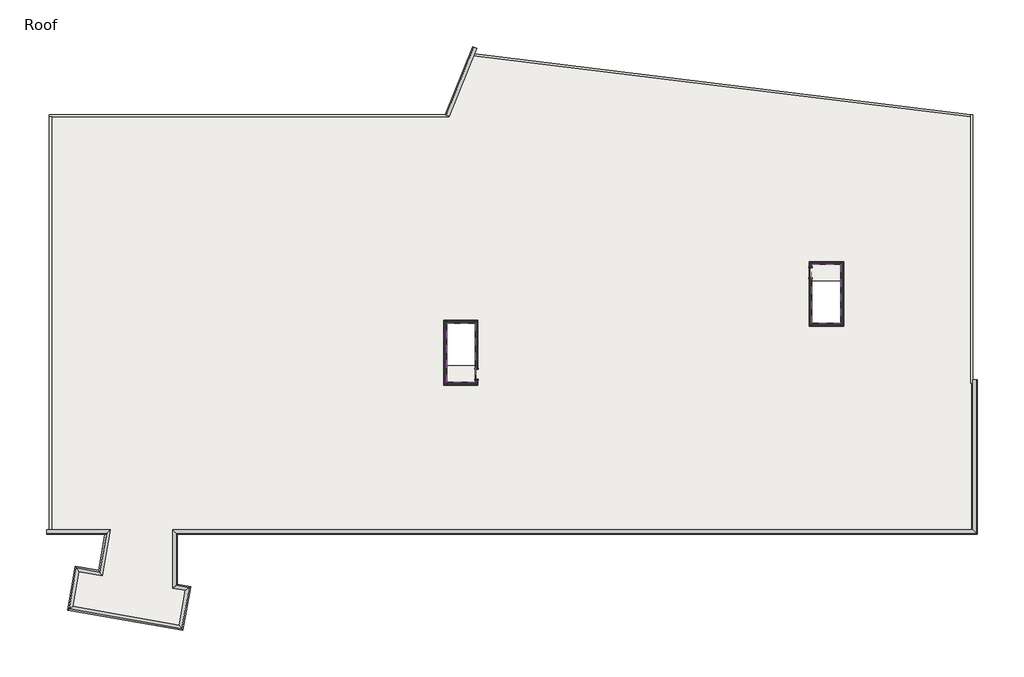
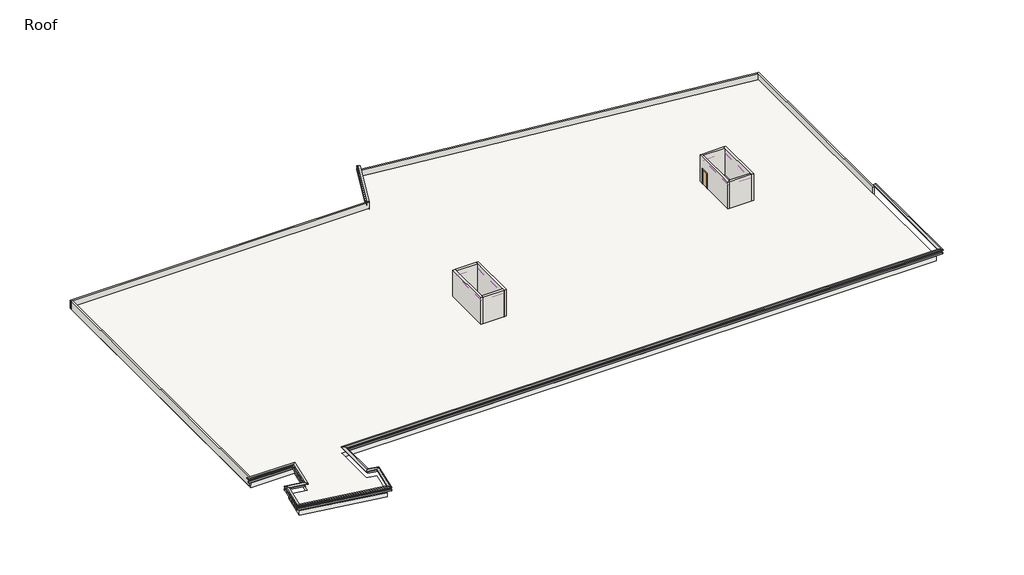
# One storey: 22 proxies, 12 walls, 3 roofs, 2 doors.
"""IFC4 building model written with IfcOpenShell, lengths in millimetres."""

import ifcopenshell
import ifcopenshell.guid

model = None  # the IFC model being written
_history = None  # IfcOwnerHistory: only IFC2X3 demands one
_inside = {}  # id of a spatial element -> (the spatial element, [elements in it])
_under = {}  # id of a project, library or spatial element -> (it, [spatial elements below it])
_declared = {}  # id of a project -> (the project, [libraries it declares])
_typed = {}  # id of a type object -> (the type object, [elements of that type])
_made_of = {}  # id of a material, layer set ... -> (it, [elements and type objects made of it])


def new_model(schema):
    """Start an empty IFC model of exactly this schema.

    Asked for "IFC4X3", IfcOpenShell would pick the latest addendum, in which some entities
    have other attributes; the version numbers below select the first issue.
    IFC2X3 requires an IfcOwnerHistory on every rooted entity: one is made here for all.
    """
    global model, _history
    if schema == "IFC4X3":
        model = ifcopenshell.file(schema_version=(4, 3, 0, 0))
    else:
        model = ifcopenshell.file(schema=schema)
    _inside.clear()
    _under.clear()
    _declared.clear()
    _typed.clear()
    _made_of.clear()
    _history = None
    if model.schema == "IFC2X3":
        org = make("IfcOrganization", Name="unknown")
        user = make(
            "IfcPersonAndOrganization",
            ThePerson=make("IfcPerson", FamilyName="unknown"),
            TheOrganization=org,
        )
        app = make(
            "IfcApplication",
            ApplicationDeveloper=org,
            Version="unknown",
            ApplicationFullName="unknown",
            ApplicationIdentifier="unknown",
        )
        _history = make(
            "IfcOwnerHistory",
            OwningUser=user,
            OwningApplication=app,
            ChangeAction="ADDED",
            CreationDate=0,
        )
    return model


def make(cls, **values):
    """One entity of the class cls with the attributes given. An attribute that is None is left unset."""
    return model.create_entity(
        cls, **{name: value for name, value in values.items() if value is not None}
    )


def rooted(cls, **values):
    """An entity with a GlobalId (a new one), such as an element, a storey or a relation."""
    return make(cls, GlobalId=ifcopenshell.guid.new(), OwnerHistory=_history, **values)


def si_unit(unit_type, name, prefix=None):
    """IfcSIUnit, for example si_unit("LENGTHUNIT", "METRE", prefix="MILLI")."""
    return make("IfcSIUnit", UnitType=unit_type, Prefix=prefix, Name=name)


def assignment(units):
    """IfcUnitAssignment: the units of a project."""
    return None if units is None else make("IfcUnitAssignment", Units=units)


def point(xyz):
    """IfcCartesianPoint."""
    return None if xyz is None else make("IfcCartesianPoint", Coordinates=xyz)


def direction(xyz):
    """IfcDirection."""
    return None if xyz is None else make("IfcDirection", DirectionRatios=xyz)


def frame(location, z_axis=None, x_axis=None):
    """IfcAxis2Placement3D, a coordinate frame: its origin and axes. An axis left out is left unset."""
    return make(
        "IfcAxis2Placement3D",
        Location=point(location),
        Axis=direction(z_axis),
        RefDirection=direction(x_axis),
    )


def origin():
    """The frame at (0, 0, 0) with its axes left unset."""
    return frame((0.0, 0.0, 0.0))


def origin_with_axes():
    """The frame at (0, 0, 0) with the z axis (0, 0, 1) and the x axis (1, 0, 0) written out."""
    return frame((0.0, 0.0, 0.0), z_axis=(0.0, 0.0, 1.0), x_axis=(1.0, 0.0, 0.0))


def place(relative_to, where):
    """IfcLocalPlacement: puts the frame where relative to a parent placement (None: the world)."""
    return make(
        "IfcLocalPlacement", PlacementRelTo=relative_to, RelativePlacement=where
    )


def context(
    kind, dimensions, precision=None, world=None, true_north=None, identifier=None
):
    """IfcGeometricRepresentationContext, for example the 3D "Model" context."""
    return make(
        "IfcGeometricRepresentationContext",
        ContextIdentifier=identifier,
        ContextType=kind,
        CoordinateSpaceDimension=dimensions,
        Precision=precision,
        WorldCoordinateSystem=world,
        TrueNorth=true_north,
    )


def project(units=None, contexts=None):
    """IfcProject with its units and contexts."""
    return rooted(
        "IfcProject",
        Name="project",
        RepresentationContexts=contexts,
        UnitsInContext=assignment(units),
    )


def spatial(cls, under=None, at=None, **own):
    """A site, building, storey or space (cls), placed at a placement, below another one or the project."""
    s = rooted(cls, ObjectPlacement=at, **own)
    if under is not None:
        _under.setdefault(under.id(), (under, []))[1].append(s)
    return s


def polyline(points):
    """IfcPolyline through the points."""
    return make("IfcPolyline", Points=[point(p) for p in points])


def outline(outer, holes=None, kind="AREA"):
    """IfcArbitraryClosedProfileDef: a profile drawn as a closed curve; with holes, ...WithVoids."""
    if holes is None:
        return make("IfcArbitraryClosedProfileDef", ProfileType=kind, OuterCurve=outer)
    return make(
        "IfcArbitraryProfileDefWithVoids",
        ProfileType=kind,
        OuterCurve=outer,
        InnerCurves=holes,
    )


def extrude(swept, where, along, depth):
    """IfcExtrudedAreaSolid: the profile swept, set in the frame where, extruded along a direction by depth."""
    return make(
        "IfcExtrudedAreaSolid",
        SweptArea=swept,
        Position=where,
        ExtrudedDirection=direction(along),
        Depth=depth,
    )


def faces_of(points, faces, orient=None, outer=None):
    """IfcFace entities. A face is a list of loops; a loop is a list of indices into points, from 0.

    orient and outer hold one flag for each loop. By default every Orientation is true, the
    first loop of a face is its IfcFaceOuterBound and the others are IfcFaceBound.
    """
    made = []
    for i, loops in enumerate(faces):
        bounds = []
        for j, loop in enumerate(loops):
            is_outer = j == 0 if outer is None else outer[i][j]
            bounds.append(
                make(
                    "IfcFaceOuterBound" if is_outer else "IfcFaceBound",
                    Bound=make("IfcPolyLoop", Polygon=[points[k] for k in loop]),
                    Orientation=True if orient is None else orient[i][j],
                )
            )
        made.append(make("IfcFace", Bounds=bounds))
    return made


def faceted_brep(points, faces, orient=None, outer=None, voids=None):
    """IfcFacetedBrep: a solid bounded by flat faces; with voids (closed shells), ...WithVoids."""
    shared = [point(p) for p in points]
    hull = make("IfcClosedShell", CfsFaces=faces_of(shared, faces, orient, outer))
    if voids is None:
        return make("IfcFacetedBrep", Outer=hull)
    return make(
        "IfcFacetedBrepWithVoids",
        Outer=hull,
        Voids=[
            make(cls, CfsFaces=faces_of(shared, fs, o, b)) for cls, fs, o, b in voids
        ],
    )


def shape(context_of_items, identifier, shape_type, items):
    """IfcShapeRepresentation: the items that make up one representation, for example the "Body"."""
    return make(
        "IfcShapeRepresentation",
        ContextOfItems=context_of_items,
        RepresentationIdentifier=identifier,
        RepresentationType=shape_type,
        Items=items,
    )


def source(mapping_origin, context_of_items, identifier, shape_type, items):
    """IfcRepresentationMap: a shape defined once, which mapped items show again and again."""
    return make(
        "IfcRepresentationMap",
        MappingOrigin=mapping_origin,
        MappedRepresentation=shape(context_of_items, identifier, shape_type, items),
    )


def transform(
    local_origin,
    x_axis=None,
    y_axis=None,
    z_axis=None,
    scale=None,
    scale2=None,
    scale3=None,
    uniform=True,
):
    """IfcCartesianTransformationOperator3D, or its non-uniform kind. x_axis, y_axis, z_axis: its Axis1, 2, 3."""
    if uniform:
        return make(
            "IfcCartesianTransformationOperator3D",
            Axis1=direction(x_axis),
            Axis2=direction(y_axis),
            LocalOrigin=point(local_origin),
            Scale=scale,
            Axis3=direction(z_axis),
        )
    return make(
        "IfcCartesianTransformationOperator3DnonUniform",
        Axis1=direction(x_axis),
        Axis2=direction(y_axis),
        LocalOrigin=point(local_origin),
        Scale=scale,
        Axis3=direction(z_axis),
        Scale2=scale2,
        Scale3=scale3,
    )


def mapped(mapping_source, mapping_target):
    """IfcMappedItem: shows the shape of a source again, moved by a transform."""
    return make(
        "IfcMappedItem", MappingSource=mapping_source, MappingTarget=mapping_target
    )


def made_of(thing, what):
    """Note that an element or type object is made of a material, layer set ...; save() writes the relation."""
    if what is not None:
        _made_of.setdefault(what.id(), (what, []))[1].append(thing)
    return thing


def element(
    cls,
    number,
    at=None,
    inside=None,
    cuts=None,
    type_object=None,
    material=None,
    context=None,
    identifier="Body",
    shape_type=None,
    held_by="IfcProductDefinitionShape",
    body=None,
    shapes=None,
    **own,
):
    """One element of the class cls, such as IfcWall. Its Tag is "e" and its number.

    at: its placement. inside: the storey or other place that contains it. cuts: it is an
    opening in that element (IfcRelVoidsElement). A single representation is given by context,
    identifier, shape_type and body (its items); several are given by shapes. held_by: the class
    of the entity that holds the representations. save() writes the other relations.
    """
    e = rooted(cls, Tag="e%d" % number, ObjectPlacement=at, **own)
    if body is not None:
        shapes = [shape(context, identifier, shape_type, body)]
    if shapes is not None:
        e.Representation = make(held_by, Representations=shapes)
    if inside is not None:
        _inside.setdefault(inside.id(), (inside, []))[1].append(e)
    if cuts is not None:
        rooted(
            "IfcRelVoidsElement", RelatingBuildingElement=cuts, RelatedOpeningElement=e
        )
    if type_object is not None:
        _typed.setdefault(type_object.id(), (type_object, []))[1].append(e)
    return made_of(e, material)


def aggregate(whole, parts):
    """IfcRelAggregates: a whole, such as a stair, and the parts it consists of."""
    return rooted("IfcRelAggregates", RelatingObject=whole, RelatedObjects=parts)


def save(model, path):
    """Write the relations noted so far, then the file.

    IfcRelAggregates (storeys below a building ...), IfcRelContainedInSpatialStructure (elements
    in a storey), IfcRelDefinesByType, IfcRelAssociatesMaterial and IfcRelDeclares: one each for
    every whole, place, type object, material and project.
    """
    for whole, parts in _under.values():
        aggregate(whole, parts)
    for where, things in _inside.values():
        rooted(
            "IfcRelContainedInSpatialStructure",
            RelatedElements=things,
            RelatingStructure=where,
        )
    for kind, things in _typed.values():
        rooted("IfcRelDefinesByType", RelatedObjects=things, RelatingType=kind)
    for what, things in _made_of.values():
        rooted("IfcRelAssociatesMaterial", RelatedObjects=things, RelatingMaterial=what)
    for by, libraries in _declared.values():
        rooted("IfcRelDeclares", RelatingContext=by, RelatedDefinitions=libraries)
    model.write(path)


def door_ec010f1f(model_context):
    return source(origin(), model_context, "Body", "SweptSolid", [
        extrude(outline(polyline([(2209.8, -533.4), (0.0, -533.4), (0.0, -457.2), (2133.6, -457.2), (2133.6, 457.2), (0.0, 457.2), (0.0, 533.4), (2209.8, 533.4), (2209.8, -533.4)])), frame((0.0, 127.0, 0.0), z_axis=(0.0, 1.0, 0.0), x_axis=(0.0, 0.0, 1.0)), (0.0, 0.0, 1.0), 25.4),
        extrude(outline(polyline([(2209.8, 533.4), (2209.8, -533.4), (0.0, -533.4), (0.0, -457.2), (2133.6, -457.2), (2133.6, 457.2), (0.0, 457.2), (0.0, 533.4), (2209.8, 533.4)])), frame((0.0, -152.4, 0.0), z_axis=(0.0, 1.0, 0.0), x_axis=(0.0, 0.0, 1.0)), (0.0, 0.0, 1.0), 25.4),
        extrude(outline(polyline([(457.2, 76.2), (-457.2, 76.2), (-457.2, 127.0), (457.2, 127.0), (457.2, 76.2)])), origin_with_axes(), (0.0, 0.0, 1.0), 2133.6),
    ])


model = new_model("IFC4")

# Units and contexts
model_context = context("Model", 3, world=origin())
ifc_project = project(units=[si_unit("LENGTHUNIT", "METRE", prefix="MILLI")], contexts=[model_context])

# Site, building, storey
site = spatial("IfcSite", under=ifc_project)
building = spatial("IfcBuilding", under=site)
storey = spatial("IfcBuildingStorey", under=building, Name="Roof", Elevation=18288.0)

# Proxies
placement = place(None, origin())
element("IfcBuildingElementProxy", 1, Name="Wall Sweeps", at=placement, inside=storey, context=model_context, shape_type="Brep", body=[
    faceted_brep([(15183.0054088, -28082.2103492, 19100.8), (15183.0054088, -28082.2103492, 18897.6), (15090.9304088, -27990.1353492, 18897.6), (15090.9304088, -27990.1353492, 19100.8), (-57076.0875003, -28082.2103492, 19100.8), (-57168.1625003, -27990.1353492, 19100.8), (-57168.1625003, -27990.1353492, 18897.6), (-57076.0875003, -28082.2103492, 18897.6), (-57076.0875003, -27990.1353492, 18897.6), (-57076.0875003, -27990.1353492, 19100.8)], [[[0, 1, 2, 3]], [[4, 5, 6, 7]], [[1, 0, 4, 7]], [[2, 1, 7, 6, 8]], [[3, 2, 8, 6, 5, 9]], [[0, 3, 9, 5, 4]]]),
])
element("IfcBuildingElementProxy", 2, Name="Wall Sweeps", at=placement, inside=storey, context=model_context, shape_type="Brep", body=[
    faceted_brep([(14802.0054088, -27701.2103492, 19367.5), (15081.4054088, -27980.6103492, 19405.6), (15208.4054088, -28107.6103492, 19367.5), (15208.4054088, -28107.6103492, 19304.0), (14802.0054088, -27701.2103492, 19304.0), (-57457.0875003, -27701.2103492, 19367.5), (-57457.0875003, -27701.2103492, 19304.0), (-57050.6875003, -28107.6103492, 19304.0), (-57050.6875003, -28107.6103492, 19367.5), (-57177.6875003, -27980.6103492, 19405.6)], [[[0, 1, 2, 3, 4]], [[5, 6, 7, 8, 9]], [[1, 0, 5, 9]], [[2, 1, 9, 8]], [[3, 2, 8, 7]], [[4, 3, 7, 6]], [[0, 4, 6, 5]]]),
])
element("IfcBuildingElementProxy", 3, Name="Wall Sweeps", at=placement, inside=storey, context=model_context, shape_type="SweptSolid", body=[
    extrude(outline(polyline([(-63573.0663387, -28082.2103492), (-63463.3356266, -27990.1353492), (-64081.0179385, -31493.1858149), (-64155.7054564, -31386.5209851), (-63573.0663387, -28082.2103492)])), frame((0.0, 0.0, 18897.6), z_axis=(0.0, 0.0, 1.0), x_axis=(1.0, 0.0, 0.0)), (0.0, 0.0, 1.0), 203.2),
])
element("IfcBuildingElementProxy", 4, Name="Wall Sweeps", at=placement, inside=storey, context=model_context, shape_type="Brep", body=[
    faceted_brep([(-63119.0082199, -27701.2103492, 19367.5), (-63119.0082199, -27701.2103492, 19304.0), (-63603.3368799, -28107.6103492, 19304.0), (-63603.3368799, -28107.6103492, 19367.5), (-63451.9841737, -27980.6103492, 19405.6), (-63846.6536582, -31827.8926946, 19367.5), (-64073.2916436, -31504.2201076, 19405.6), (-64176.3089096, -31357.0962044, 19367.5), (-64176.3089096, -31357.0962044, 19304.0), (-63846.6536582, -31827.8926946, 19304.0)], [[[0, 1, 2, 3, 4]], [[5, 6, 7, 8, 9]], [[0, 4, 6, 5]], [[4, 3, 7, 6]], [[3, 2, 8, 7]], [[2, 1, 9, 8]], [[1, 0, 5, 9]]]),
])
element("IfcBuildingElementProxy", 5, Name="Wall Sweeps", at=placement, inside=storey, context=model_context, shape_type="Brep", body=[
    faceted_brep([(-64155.7054564, -31386.5209851, 19100.8), (-64081.0179385, -31493.1858149, 19100.8), (-64081.0179385, -31493.1858149, 18897.6), (-64155.7054564, -31386.5209851, 18897.6), (-66256.8912782, -31016.0252332, 19100.8), (-66256.8912782, -31016.0252332, 18897.6), (-66182.2037603, -31122.690063, 18897.6), (-66182.2037603, -31122.690063, 19100.8), (-64171.6941124, -31477.1971589, 18897.6), (-64171.6941124, -31477.1971589, 19100.8)], [[[0, 1, 2, 3]], [[4, 5, 6, 7]], [[0, 3, 5, 4]], [[3, 2, 8, 6, 5]], [[2, 1, 9, 7, 6, 8]], [[1, 0, 4, 7, 9]]]),
])
element("IfcBuildingElementProxy", 6, Name="Wall Sweeps", at=placement, inside=storey, context=model_context, shape_type="Brep", body=[
    faceted_brep([(-63846.6536582, -31827.8926946, 19367.5), (-63846.6536582, -31827.8926946, 19304.0), (-64176.3089096, -31357.0962044, 19304.0), (-64176.3089096, -31357.0962044, 19367.5), (-64073.2916436, -31504.2201076, 19405.6), (-65947.83948, -31457.3969428, 19367.5), (-66174.4774654, -31133.7243557, 19405.6), (-66277.4947315, -30986.6004526, 19367.5), (-66277.4947315, -30986.6004526, 19304.0), (-65947.83948, -31457.3969428, 19304.0)], [[[0, 1, 2, 3, 4]], [[5, 6, 7, 8, 9]], [[0, 4, 6, 5]], [[4, 3, 7, 6]], [[3, 2, 8, 7]], [[2, 1, 9, 8]], [[1, 0, 5, 9]]]),
])
element("IfcBuildingElementProxy", 7, Name="Wall Sweeps", at=placement, inside=storey, context=model_context, shape_type="Brep", body=[
    faceted_brep([(-66256.8912782, -31016.0252332, 19100.8), (-66182.2037603, -31122.690063, 19100.8), (-66182.2037603, -31122.690063, 18897.6), (-66256.8912782, -31016.0252332, 18897.6), (-66944.9548174, -34918.2274737, 19100.8), (-66944.9548174, -34918.2274737, 18897.6), (-66838.2899876, -34843.5399558, 18897.6), (-66838.2899876, -34843.5399558, 19100.8), (-66318.0892373, -31363.0961055, 18897.6), (-66318.0892373, -31363.0961055, 19100.8), (-66227.4130634, -31379.0847615, 18897.6), (-66227.4130634, -31379.0847615, 19100.8)], [[[0, 1, 2, 3]], [[4, 5, 6, 7]], [[0, 3, 8, 5, 4, 9]], [[3, 2, 10, 6, 5, 8]], [[2, 1, 11, 7, 6, 10]], [[1, 0, 9, 4, 7, 11]]]),
])
element("IfcBuildingElementProxy", 8, Name="Wall Sweeps", at=placement, inside=storey, context=model_context, shape_type="Brep", body=[
    faceted_brep([(-65947.83948, -31457.3969428, 19367.5), (-65947.83948, -31457.3969428, 19304.0), (-66277.4947315, -30986.6004526, 19304.0), (-66277.4947315, -30986.6004526, 19367.5), (-66174.4774654, -31133.7243557, 19405.6), (-66503.5831078, -34609.1756755, 19367.5), (-66827.2556949, -34835.8136609, 19405.6), (-66974.3795981, -34938.8309269, 19367.5), (-66974.3795981, -34938.8309269, 19304.0), (-66503.5831078, -34609.1756755, 19304.0)], [[[0, 1, 2, 3, 4]], [[5, 6, 7, 8, 9]], [[0, 4, 6, 5]], [[4, 3, 7, 6]], [[3, 2, 8, 7]], [[2, 1, 9, 8]], [[1, 0, 5, 9]]]),
])
element("IfcBuildingElementProxy", 9, Name="Wall Sweeps", at=placement, inside=storey, context=model_context, shape_type="Brep", body=[
    faceted_brep([(-66944.9548174, -34918.2274737, 19100.8), (-66838.2899876, -34843.5399558, 19100.8), (-66838.2899876, -34843.5399558, 18897.6), (-66944.9548174, -34918.2274737, 18897.6), (-56579.730116, -36745.8962497, 19100.8), (-56579.730116, -36745.8962497, 18897.6), (-56654.4176339, -36639.2314199, 18897.6), (-56654.4176339, -36639.2314199, 19100.8), (-66597.8839451, -34979.4254327, 18897.6), (-66597.8839451, -34979.4254327, 19100.8), (-66581.8952891, -34888.7492589, 18897.6), (-66581.8952891, -34888.7492589, 19100.8)], [[[0, 1, 2, 3]], [[4, 5, 6, 7]], [[0, 3, 8, 5, 4, 9]], [[3, 2, 10, 6, 5, 8]], [[2, 1, 11, 7, 6, 10]], [[1, 0, 9, 4, 7, 11]]]),
])
element("IfcBuildingElementProxy", 10, Name="Wall Sweeps", at=placement, inside=storey, context=model_context, shape_type="Brep", body=[
    faceted_brep([(-66503.5831078, -34609.1756755, 19367.5), (-66503.5831078, -34609.1756755, 19304.0), (-66974.3795981, -34938.8309269, 19304.0), (-66974.3795981, -34938.8309269, 19367.5), (-66827.2556949, -34835.8136609, 19405.6), (-56888.7819142, -36304.5245401, 19367.5), (-56662.1439289, -36628.1971271, 19405.6), (-56559.1266628, -36775.3210303, 19367.5), (-56559.1266628, -36775.3210303, 19304.0), (-56888.7819142, -36304.5245401, 19304.0)], [[[0, 1, 2, 3, 4]], [[5, 6, 7, 8, 9]], [[0, 4, 6, 5]], [[4, 3, 7, 6]], [[3, 2, 8, 7]], [[2, 1, 9, 8]], [[1, 0, 5, 9]]]),
])
element("IfcBuildingElementProxy", 11, Name="Wall Sweeps", at=placement, inside=storey, context=model_context, shape_type="Brep", body=[
    faceted_brep([(-56579.730116, -36745.8962497, 19100.8), (-56654.4176339, -36639.2314199, 19100.8), (-56654.4176339, -36639.2314199, 18897.6), (-56579.730116, -36745.8962497, 18897.6), (-55891.6665768, -32843.6940092, 19100.8), (-55891.6665768, -32843.6940092, 18897.6), (-55998.3314066, -32918.3815271, 18897.6), (-55998.3314066, -32918.3815271, 19100.8), (-56518.532157, -36398.8253773, 18897.6), (-56518.532157, -36398.8253773, 19100.8), (-56609.2083309, -36382.8367214, 18897.6), (-56609.2083309, -36382.8367214, 19100.8)], [[[0, 1, 2, 3]], [[4, 5, 6, 7]], [[0, 3, 8, 5, 4, 9]], [[3, 2, 10, 6, 5, 8]], [[2, 1, 11, 7, 6, 10]], [[1, 0, 9, 4, 7, 11]]]),
])
element("IfcBuildingElementProxy", 12, Name="Wall Sweeps", at=placement, inside=storey, context=model_context, shape_type="Brep", body=[
    faceted_brep([(-56888.7819142, -36304.5245401, 19367.5), (-56888.7819142, -36304.5245401, 19304.0), (-56559.1266628, -36775.3210303, 19304.0), (-56559.1266628, -36775.3210303, 19367.5), (-56662.1439289, -36628.1971271, 19405.6), (-56333.0382864, -33152.7458074, 19367.5), (-56009.3656994, -32926.107822, 19405.6), (-55862.2417962, -32823.0905559, 19367.5), (-55862.2417962, -32823.0905559, 19304.0), (-56333.0382864, -33152.7458074, 19304.0)], [[[0, 1, 2, 3, 4]], [[5, 6, 7, 8, 9]], [[0, 4, 6, 5]], [[4, 3, 7, 6]], [[3, 2, 8, 7]], [[2, 1, 9, 8]], [[1, 0, 5, 9]]]),
])
element("IfcBuildingElementProxy", 13, Name="Wall Sweeps", at=placement, inside=storey, context=model_context, shape_type="Brep", body=[
    faceted_brep([(-55891.6665768, -32843.6940092, 19100.8), (-55998.3314066, -32918.3815271, 19100.8), (-55998.3314066, -32918.3815271, 18897.6), (-55891.6665768, -32843.6940092, 18897.6), (-57076.0875003, -32634.8486438, 19100.8), (-57076.0875003, -32634.8486438, 18897.6), (-57168.1625003, -32712.1087424, 18897.6), (-57168.1625003, -32712.1087424, 19100.8), (-56238.7374492, -32782.4960501, 18897.6), (-56238.7374492, -32782.4960501, 19100.8), (-56254.7261051, -32873.172224, 18897.6), (-56254.7261051, -32873.172224, 19100.8)], [[[0, 1, 2, 3]], [[4, 5, 6, 7]], [[0, 3, 8, 5, 4, 9]], [[3, 2, 10, 6, 5, 8]], [[2, 1, 11, 7, 6, 10]], [[1, 0, 9, 4, 7, 11]]]),
])
element("IfcBuildingElementProxy", 14, Name="Wall Sweeps", at=placement, inside=storey, context=model_context, shape_type="Brep", body=[
    faceted_brep([(-56333.0382864, -33152.7458074, 19367.5), (-56333.0382864, -33152.7458074, 19304.0), (-55862.2417962, -32823.0905559, 19304.0), (-55862.2417962, -32823.0905559, 19367.5), (-56009.3656994, -32926.107822, 19405.6), (-57457.0875003, -32954.5456033, 19367.5), (-57177.6875003, -32720.1011664, 19405.6), (-57050.6875003, -32613.5355132, 19367.5), (-57050.6875003, -32613.5355132, 19304.0), (-57457.0875003, -32954.5456033, 19304.0)], [[[0, 1, 2, 3, 4]], [[5, 6, 7, 8, 9]], [[0, 4, 6, 5]], [[4, 3, 7, 6]], [[3, 2, 8, 7]], [[2, 1, 9, 8]], [[1, 0, 5, 9]]]),
])
element("IfcBuildingElementProxy", 15, Name="Wall Sweeps", at=placement, inside=storey, context=model_context, shape_type="Brep", body=[
    faceted_brep([(-57076.0875003, -32634.8486438, 19100.8), (-57168.1625003, -32712.1087424, 19100.8), (-57168.1625003, -32712.1087424, 18897.6), (-57076.0875003, -32634.8486438, 18897.6), (-57076.0875003, -28082.2103492, 19100.8), (-57076.0875003, -28082.2103492, 18897.6), (-57168.1625003, -27990.1353492, 18897.6), (-57168.1625003, -27990.1353492, 19100.8), (-57168.1625003, -32618.6133371, 18897.6), (-57168.1625003, -32618.6133371, 19100.8)], [[[0, 1, 2, 3]], [[4, 5, 6, 7]], [[0, 3, 5, 4]], [[3, 2, 8, 6, 5]], [[2, 1, 9, 7, 6, 8]], [[1, 0, 4, 7, 9]]]),
])
element("IfcBuildingElementProxy", 16, Name="Wall Sweeps", at=placement, inside=storey, context=model_context, shape_type="Brep", body=[
    faceted_brep([(-57457.0875003, -32954.5456033, 19367.5), (-57457.0875003, -32954.5456033, 19304.0), (-57050.6875003, -32613.5355132, 19304.0), (-57050.6875003, -32613.5355132, 19367.5), (-57177.6875003, -32720.1011664, 19405.6), (-57457.0875003, -27701.2103492, 19367.5), (-57177.6875003, -27980.6103492, 19405.6), (-57050.6875003, -28107.6103492, 19367.5), (-57050.6875003, -28107.6103492, 19304.0), (-57457.0875003, -27701.2103492, 19304.0)], [[[0, 1, 2, 3, 4]], [[5, 6, 7, 8, 9]], [[0, 4, 6, 5]], [[4, 3, 7, 6]], [[3, 2, 8, 7]], [[2, 1, 9, 8]], [[1, 0, 5, 9]]]),
])
element("IfcBuildingElementProxy", 17, Name="Wall Sweeps", at=placement, inside=storey, context=model_context, shape_type="Brep", body=[
    faceted_brep([(-63573.0663387, -28082.2103492, 19100.8), (-63573.0663387, -28082.2103492, 18897.6), (-63463.3356266, -27990.1353492, 18897.6), (-63463.3356266, -27990.1353492, 19100.8), (-68878.5489105, -28082.2103492, 19100.8), (-68878.5489105, -27990.1353492, 19100.8), (-68878.5489105, -27990.1353492, 18897.6), (-68878.5489105, -28082.2103492, 18897.6), (-63556.8310319, -27990.1353492, 18897.6), (-63556.8310319, -27990.1353492, 19100.8)], [[[0, 1, 2, 3]], [[4, 5, 6, 7]], [[1, 0, 4, 7]], [[2, 1, 7, 6, 8]], [[3, 2, 8, 6, 5, 9]], [[0, 3, 9, 5, 4]]]),
])
element("IfcBuildingElementProxy", 18, Name="Wall Sweeps", at=placement, inside=storey, context=model_context, shape_type="Brep", body=[
    faceted_brep([(-63119.0082199, -27701.2103492, 19367.5), (-63451.9841737, -27980.6103492, 19405.6), (-63603.3368799, -28107.6103492, 19367.5), (-63603.3368799, -28107.6103492, 19304.0), (-63119.0082199, -27701.2103492, 19304.0), (-68878.5489105, -27701.2103492, 19367.5), (-68878.5489105, -27701.2103492, 19304.0), (-68878.5489105, -27729.7853492, 19304.0), (-68878.5489105, -28082.2103492, 19304.0), (-68878.5489105, -28107.6103492, 19304.0), (-68878.5489105, -28107.6103492, 19367.5), (-68878.5489105, -27980.6103492, 19405.6)], [[[0, 1, 2, 3, 4]], [[5, 6, 7, 8, 9, 10, 11]], [[1, 0, 5, 11]], [[2, 1, 11, 10]], [[3, 2, 10, 9]], [[4, 3, 9, 8, 7, 6]], [[0, 4, 6, 5]]]),
])
element("IfcBuildingElementProxy", 19, Name="Wall Sweeps", at=placement, inside=storey, context=model_context, shape_type="Brep", body=[
    faceted_brep([(-32848.1803429, 9805.0646508, 19100.8), (-32848.1803429, 9805.0646508, 18897.6), (-32762.8098895, 9770.5727487, 18897.6), (-32762.8098895, 9770.5727487, 19100.8), (-30364.4519809, 15952.5080671, 19100.8), (-30279.0815275, 15918.016165, 19100.8), (-30279.0815275, 15918.016165, 18897.6), (-30364.4519809, 15952.5080671, 18897.6), (-32748.8742565, 9805.0646508, 18897.6), (-32748.8742565, 9805.0646508, 19100.8)], [[[0, 1, 2, 3]], [[4, 5, 6, 7]], [[1, 0, 4, 7]], [[2, 1, 7, 6, 8]], [[3, 2, 8, 6, 5, 9]], [[0, 3, 9, 5, 4]]]),
])
element("IfcBuildingElementProxy", 20, Name="Wall Sweeps", at=placement, inside=storey, context=model_context, shape_type="Brep", body=[
    faceted_brep([(-32494.9232944, 9662.3395387, 19367.5), (-32753.9784633, 9767.0046209, 19405.6), (-32871.7308129, 9814.5796583, 19367.5), (-32871.7308129, 9814.5796583, 19304.0), (-32494.9232944, 9662.3395387, 19304.0), (-30011.1949323, 15809.782955, 19367.5), (-30011.1949323, 15809.782955, 19304.0), (-30037.689211, 15820.4873384, 19304.0), (-30364.4519809, 15952.5080671, 19304.0), (-30388.0024508, 15962.0230746, 19304.0), (-30388.0024508, 15962.0230746, 19367.5), (-30270.2501013, 15914.4480372, 19405.6)], [[[0, 1, 2, 3, 4]], [[5, 6, 7, 8, 9, 10, 11]], [[1, 0, 5, 11]], [[2, 1, 11, 10]], [[3, 2, 10, 9]], [[4, 3, 9, 8, 7, 6]], [[0, 4, 6, 5]]]),
])
element("IfcBuildingElementProxy", 21, Name="Wall Sweeps", at=placement, inside=storey, context=model_context, shape_type="Brep", body=[
    faceted_brep([(15183.0054088, -14142.3728492, 19100.8), (15183.0054088, -14142.3728492, 18897.6), (15090.9304088, -14142.3728492, 18897.6), (15090.9304088, -14142.3728492, 19100.8), (15183.0054088, -28082.2103492, 19100.8), (15090.9304088, -27990.1353492, 19100.8), (15090.9304088, -27990.1353492, 18897.6), (15183.0054088, -28082.2103492, 18897.6), (15183.0054088, -27729.7853492, 19100.8), (15183.0054088, -27729.7853492, 18897.6), (15090.9304088, -27729.7853492, 18897.6), (15090.9304088, -27729.7853492, 19100.8)], [[[0, 1, 2, 3]], [[4, 5, 6, 7]], [[1, 0, 8, 4, 7, 9]], [[2, 1, 9, 7, 6, 10]], [[3, 2, 10, 6, 5, 11]], [[0, 3, 11, 5, 4, 8]]]),
])
element("IfcBuildingElementProxy", 22, Name="Wall Sweeps", at=placement, inside=storey, context=model_context, shape_type="Brep", body=[
    faceted_brep([(14802.0054088, -14142.3728492, 19367.5), (15081.4054088, -14142.3728492, 19405.6), (15208.4054088, -14142.3728492, 19367.5), (15208.4054088, -14142.3728492, 19304.0), (15183.0054088, -14142.3728492, 19304.0), (14830.5804088, -14142.3728492, 19304.0), (14802.0054088, -14142.3728492, 19304.0), (14802.0054088, -27701.2103492, 19367.5), (14802.0054088, -27701.2103492, 19304.0), (15208.4054088, -28107.6103492, 19304.0), (15208.4054088, -28107.6103492, 19367.5), (15081.4054088, -27980.6103492, 19405.6)], [[[0, 1, 2, 3, 4, 5, 6]], [[7, 8, 9, 10, 11]], [[1, 0, 7, 11]], [[2, 1, 11, 10]], [[3, 2, 10, 9]], [[6, 5, 4, 3, 9, 8]], [[0, 6, 8, 7]]]),
])

# Doors
door_shape = door_ec010f1f(model_context)
element("IfcDoor", 23, ObjectType="Single-Flush : 36\" x 84\"", at=placement, inside=storey, context=model_context, shape_type="MappedRepresentation", body=[
    mapped(door_shape, transform((-30039.6713641, -13629.6103492, 18288.0), x_axis=(0.0, 1.0, 0.0), y_axis=(-1.0, 0.0, 0.0), z_axis=(0.0, 0.0, 1.0))),
])
element("IfcDoor", 24, ObjectType="Single-Flush : 36\" x 84\"", at=placement, inside=storey, context=model_context, shape_type="MappedRepresentation", body=[
    mapped(door_shape, transform((131.9000645, -4460.2103492, 18288.0), x_axis=(0.0, 1.0, 0.0), y_axis=(-1.0, 0.0, 0.0), z_axis=(0.0, 0.0, 1.0))),
])

# Roofs
element("IfcRoof", 25, ObjectType="Steel Truss - Insulation on Metal Deck - EPDM", at=placement, inside=storey, context=model_context, shape_type="SweptSolid", body=[
    extrude(outline(polyline([(-63153.0625788, -27729.7853492), (-68426.1114105, -27729.7853492), (-68426.1114105, 9611.3896508), (-32546.3275155, 9611.3896508), (-30314.3106087, 15135.8253535), (14587.6929088, 9622.552568), (14587.6929088, -14390.0228492), (14627.3804088, -14390.0228492), (14627.3804088, -27729.7853492), (-57428.5125003, -27729.7853492), (-57428.5125003, -32930.5683313), (-56299.9354082, -33129.5669225), (-56865.6030293, -36337.6274183), (-66536.6859861, -34632.3545604), (-65971.0183649, -31424.2940646), (-63869.8325431, -31794.7898164), (-63153.0625788, -27729.7853492)]), holes=[polyline([(-32750.2142212, -9032.2103492), (-32750.2142212, -12842.2103492), (-30166.6713641, -12842.2103492), (-30166.6713641, -9032.2103492), (-32750.2142212, -9032.2103492)]), polyline([(2867.8429217, -9032.2103492), (2867.8429217, -5222.2103492), (284.3000645, -5222.2103492), (284.3000645, -9032.2103492), (2867.8429217, -9032.2103492)])]), frame((0.0, 0.0, 17983.2), z_axis=(0.0, 0.0, 1.0), x_axis=(1.0, 0.0, 0.0)), (0.0, 0.0, 1.0), 546.1),
])
element("IfcRoof", 26, ObjectType="Steel Truss - Insulation on Metal Deck - EPDM", at=placement, inside=storey, context=model_context, shape_type="SweptSolid", body=[
    extrude(outline(polyline([(-30166.6713641, -9032.2103492), (-30166.6713641, -14366.2103492), (-32750.2142212, -14366.2103492), (-32750.2142212, -9032.2103492), (-30166.6713641, -9032.2103492)])), frame((0.0, 0.0, 21336.0), z_axis=(0.0, 0.0, 1.0), x_axis=(1.0, 0.0, 0.0)), (0.0, 0.0, 1.0), 546.1),
])
element("IfcRoof", 27, ObjectType="Steel Truss - Insulation on Metal Deck - EPDM", at=placement, inside=storey, context=model_context, shape_type="SweptSolid", body=[
    extrude(outline(polyline([(258.9000645, -9032.2103492), (258.9000645, -3723.6103492), (2867.8429217, -3723.6103492), (2867.8429217, -9032.2103492), (258.9000645, -9032.2103492)])), frame((0.0, 0.0, 21336.0), z_axis=(0.0, 0.0, 1.0), x_axis=(1.0, 0.0, 0.0)), (0.0, 0.0, 1.0), 546.1),
])

# Walls
element("IfcWall", 28, ObjectType="Core-shaft 10\" Concrete", at=placement, inside=storey, context=model_context, shape_type="Brep", body=[
    faceted_brep([(-32750.2142212, -14620.2103492, 18288.0), (-32750.2142212, -14366.2103492, 18288.0), (-32750.2142212, -9032.2103492, 18288.0), (-32750.2142212, -8778.2103492, 18288.0), (-32750.2142212, -8778.2103492, 21945.6), (-32750.2142212, -9032.2103492, 21945.6), (-32750.2142212, -14366.2103492, 21945.6), (-32750.2142212, -14620.2103492, 21945.6), (-33004.2142212, -14620.2103492, 18288.0), (-33004.2142212, -14620.2103492, 21945.6), (-33004.2142212, -8778.2103492, 21945.6), (-33004.2142212, -8778.2103492, 18288.0)], [[[0, 1, 2, 3, 4, 5, 6, 7]], [[8, 9, 10, 11]], [[3, 2, 1, 0, 8, 11]], [[7, 6, 5, 4, 10, 9]], [[4, 3, 11, 10]], [[0, 7, 9, 8]]]),
])
element("IfcWall", 29, ObjectType="Core-shaft 10\" Concrete", at=placement, inside=storey, context=model_context, shape_type="Brep", body=[
    faceted_brep([(-29912.6713641, -13172.4103492, 20421.6), (-29912.6713641, -13172.4103492, 18288.0), (-29912.6713641, -8778.2103492, 18288.0), (-29912.6713641, -8778.2103492, 21945.6), (-29912.6713641, -14620.2103492, 21945.6), (-29912.6713641, -14620.2103492, 18288.0), (-29912.6713641, -14086.8103492, 18288.0), (-29912.6713641, -14086.8103492, 20421.6), (-30166.6713641, -8778.2103492, 18288.0), (-30166.6713641, -9032.2103492, 18288.0), (-30166.6713641, -13172.4103492, 18288.0), (-30166.6713641, -13172.4103492, 20421.6), (-30166.6713641, -14086.8103492, 20421.6), (-30166.6713641, -14086.8103492, 18288.0), (-30166.6713641, -14366.2103492, 18288.0), (-30166.6713641, -14620.2103492, 18288.0), (-30166.6713641, -14620.2103492, 21945.6), (-30166.6713641, -14366.2103492, 21945.6), (-30166.6713641, -9032.2103492, 21945.6), (-30166.6713641, -8778.2103492, 21945.6)], [[[0, 1, 2, 3, 4, 5, 6, 7]], [[8, 9, 10, 11, 12, 13, 14, 15, 16, 17, 18, 19]], [[6, 5, 15, 14, 13]], [[2, 1, 10, 9, 8]], [[4, 3, 19, 18, 17, 16]], [[3, 2, 8, 19]], [[11, 10, 1, 0]], [[12, 11, 0, 7]], [[13, 12, 7, 6]], [[5, 4, 16, 15]]]),
])
element("IfcWall", 30, ObjectType="Core-shaft 10\" Concrete", at=placement, inside=storey, context=model_context, shape_type="SweptSolid", body=[
    extrude(outline(polyline([(-32750.2142212, -8778.2103492), (-30166.6713641, -8778.2103492), (-30166.6713641, -9032.2103492), (-32750.2142212, -9032.2103492), (-32750.2142212, -8778.2103492)])), frame((0.0, 0.0, 18288.0), z_axis=(0.0, 0.0, 1.0), x_axis=(1.0, 0.0, 0.0)), (0.0, 0.0, 1.0), 3657.6),
])
element("IfcWall", 31, ObjectType="Core-shaft 10\" Concrete", at=placement, inside=storey, context=model_context, shape_type="SweptSolid", body=[
    extrude(outline(polyline([(-32750.2142212, -14366.2103492), (-30166.6713641, -14366.2103492), (-30166.6713641, -14620.2103492), (-32750.2142212, -14620.2103492), (-32750.2142212, -14366.2103492)])), frame((0.0, 0.0, 18288.0), z_axis=(0.0, 0.0, 1.0), x_axis=(1.0, 0.0, 0.0)), (0.0, 0.0, 1.0), 3657.6),
])
element("IfcWall", 32, ObjectType="Core-shaft 10\" Concrete", at=placement, inside=storey, context=model_context, shape_type="Brep", body=[
    faceted_brep([(3121.8429217, -9286.2103492, 18288.0), (3121.8429217, -3469.6103492, 18288.0), (3121.8429217, -3469.6103492, 21945.6), (3121.8429217, -9286.2103492, 21945.6), (2867.8429217, -9286.2103492, 18288.0), (2867.8429217, -9286.2103492, 21945.6), (2867.8429217, -9032.2103492, 21945.6), (2867.8429217, -3723.6103492, 21945.6), (2867.8429217, -3469.6103492, 21945.6), (2867.8429217, -3469.6103492, 18288.0), (2867.8429217, -3723.6103492, 18288.0), (2867.8429217, -9032.2103492, 18288.0)], [[[0, 1, 2, 3]], [[4, 5, 6, 7, 8, 9, 10, 11]], [[1, 0, 4, 11, 10, 9]], [[3, 2, 8, 7, 6, 5]], [[2, 1, 9, 8]], [[0, 3, 5, 4]]]),
])
element("IfcWall", 33, ObjectType="Core-shaft 10\" Concrete", at=placement, inside=storey, context=model_context, shape_type="Brep", body=[
    faceted_brep([(258.9000645, -4003.0103492, 20421.6), (258.9000645, -4003.0103492, 18288.0), (258.9000645, -3723.6103492, 18288.0), (258.9000645, -3469.6103492, 18288.0), (258.9000645, -3469.6103492, 21945.6), (258.9000645, -3723.6103492, 21945.6), (258.9000645, -9032.2103492, 21945.6), (258.9000645, -9286.2103492, 21945.6), (258.9000645, -9286.2103492, 18288.0), (258.9000645, -9032.2103492, 18288.0), (258.9000645, -4917.4103492, 18288.0), (258.9000645, -4917.4103492, 20421.6), (4.9000645, -3469.6103492, 18288.0), (4.9000645, -4003.0103492, 18288.0), (4.9000645, -4003.0103492, 20421.6), (4.9000645, -4917.4103492, 20421.6), (4.9000645, -4917.4103492, 18288.0), (4.9000645, -9286.2103492, 18288.0), (4.9000645, -9286.2103492, 21945.6), (4.9000645, -3469.6103492, 21945.6)], [[[0, 1, 2, 3, 4, 5, 6, 7, 8, 9, 10, 11]], [[12, 13, 14, 15, 16, 17, 18, 19]], [[10, 9, 8, 17, 16]], [[3, 2, 1, 13, 12]], [[7, 6, 5, 4, 19, 18]], [[4, 3, 12, 19]], [[14, 13, 1, 0]], [[15, 14, 0, 11]], [[16, 15, 11, 10]], [[8, 7, 18, 17]]]),
])
element("IfcWall", 34, ObjectType="Core-shaft 10\" Concrete", at=placement, inside=storey, context=model_context, shape_type="SweptSolid", body=[
    extrude(outline(polyline([(2867.8429217, -3723.6103492), (258.9000645, -3723.6103492), (258.9000645, -3469.6103492), (2867.8429217, -3469.6103492), (2867.8429217, -3723.6103492)])), frame((0.0, 0.0, 18288.0), z_axis=(0.0, 0.0, 1.0), x_axis=(1.0, 0.0, 0.0)), (0.0, 0.0, 1.0), 3657.6),
])
element("IfcWall", 35, ObjectType="Core-shaft 10\" Concrete", at=placement, inside=storey, context=model_context, shape_type="SweptSolid", body=[
    extrude(outline(polyline([(2867.8429217, -9286.2103492), (258.9000645, -9286.2103492), (258.9000645, -9032.2103492), (2867.8429217, -9032.2103492), (2867.8429217, -9286.2103492)])), frame((0.0, 0.0, 18288.0), z_axis=(0.0, 0.0, 1.0), x_axis=(1.0, 0.0, 0.0)), (0.0, 0.0, 1.0), 3657.6),
])
element("IfcWall", 36, ObjectType="Generic - 8\" Masonry", at=placement, inside=storey, context=model_context, shape_type="Brep", body=[
    faceted_brep([(14781.3679088, -14447.1728492, 18262.6), (14781.3679088, 9793.9017336, 18262.6), (14781.3679088, 9793.9017336, 19304.0), (14781.3679088, -14447.1728492, 19304.0), (14587.6929088, -14447.1728492, 18262.6), (14587.6929088, -14447.1728492, 19304.0), (14587.6929088, 9622.552568, 19304.0), (14587.6929088, 9817.6820334, 19304.0), (14587.6929088, 9817.6820334, 18262.6), (14587.6929088, 9622.552568, 18262.6)], [[[0, 1, 2, 3]], [[4, 5, 6, 7, 8, 9]], [[1, 0, 4, 9, 8]], [[3, 2, 7, 6, 5]], [[0, 3, 5, 4]], [[2, 1, 8, 7]]]),
])
element("IfcWall", 37, ObjectType="Generic - 8\" Masonry", at=placement, inside=storey, context=model_context, shape_type="Brep", body=[
    faceted_brep([(-32468.0777363, 9805.0646508, 18262.6), (-68619.7864105, 9805.0646508, 18262.6), (-68619.7864105, 9805.0646508, 19304.0), (-32848.1803429, 9805.0646508, 19304.0), (-32468.0777363, 9805.0646508, 19304.0), (-32848.1803429, 9805.0646508, 19100.8), (-32848.1803429, 9805.0646508, 18897.6), (-32748.8742565, 9805.0646508, 18897.6), (-32748.8742565, 9805.0646508, 19100.8), (-68619.7864105, 9611.3896508, 18262.6), (-68426.1114105, 9611.3896508, 18262.6), (-32546.3275155, 9611.3896508, 18262.6), (-32546.3275155, 9611.3896508, 19304.0), (-68426.1114105, 9611.3896508, 19304.0), (-68619.7864105, 9611.3896508, 19304.0), (-32762.8098895, 9770.5727487, 18897.6), (-32762.8098895, 9770.5727487, 19100.8)], [[[0, 1, 2, 3, 4], [5, 6, 7, 8]], [[9, 10, 11, 12, 13, 14]], [[1, 0, 11, 10, 9]], [[4, 3, 2, 14, 13, 12]], [[2, 1, 9, 14]], [[0, 4, 12, 11]], [[15, 6, 5, 16]], [[6, 15, 7]], [[15, 16, 8, 7]], [[16, 5, 8]]]),
])
element("IfcWall", 38, ObjectType="Generic - 8\" Masonry", at=placement, inside=storey, context=model_context, shape_type="SweptSolid", body=[
    extrude(outline(polyline([(-68619.7864105, -27729.7853492), (-68619.7864105, 9611.3896508), (-68426.1114105, 9611.3896508), (-68426.1114105, -27729.7853492), (-68619.7864105, -27729.7853492)])), frame((0.0, 0.0, 18262.6), z_axis=(0.0, 0.0, 1.0), x_axis=(1.0, 0.0, 0.0)), (0.0, 0.0, 1.0), 1041.4),
])
element("IfcWall", 39, ObjectType="Generic - 8\" Masonry", at=placement, inside=storey, context=model_context, shape_type="SweptSolid", body=[
    extrude(outline(polyline([(-30239.1993217, 15321.7323126), (14587.6929088, 9817.6820334), (14587.6929088, 9622.552568), (-30314.3106087, 15135.8253535), (-30239.1993217, 15321.7323126)])), frame((0.0, 0.0, 18262.6), z_axis=(0.0, 0.0, 1.0), x_axis=(1.0, 0.0, 0.0)), (0.0, 0.0, 1.0), 1041.4),
])

save(model, "model.ifc")
